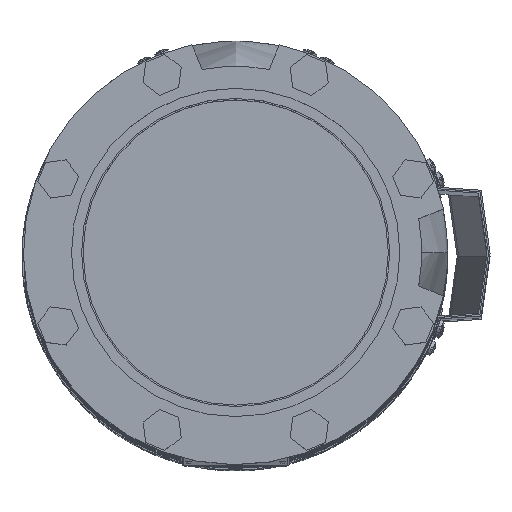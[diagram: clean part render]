
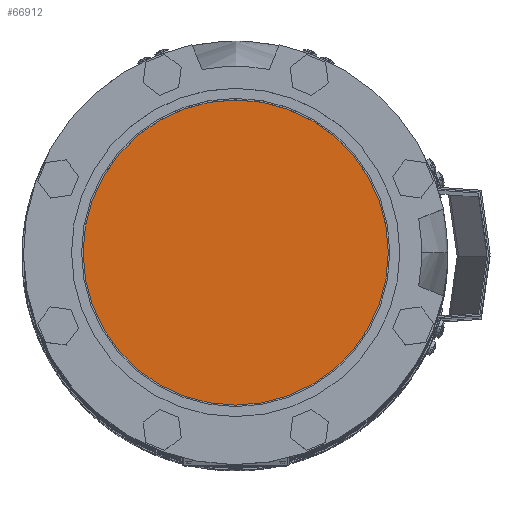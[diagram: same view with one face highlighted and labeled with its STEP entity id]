
A CAD part, top view. The second image highlights one B-rep face of the part: STEP entity #66912.
In plain terms, the highlighted planar face has unit normal (0, 0, 1) as drawn and (0, 1, 0) by its records, which use the part's own axes.
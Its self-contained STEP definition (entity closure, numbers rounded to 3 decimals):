
#604=CIRCLE('',#70518,102.5);
#605=CIRCLE('',#70519,102.5);
#16235=ORIENTED_EDGE('',*,*,#36499,.F.);
#16236=ORIENTED_EDGE('',*,*,#36500,.T.);
#36499=EDGE_CURVE('',#46631,#46632,#604,.T.);
#36500=EDGE_CURVE('',#46631,#46632,#605,.T.);
#46631=VERTEX_POINT('',#96509);
#46632=VERTEX_POINT('',#96510);
#54159=EDGE_LOOP('',(#16235,#16236));
#59022=FACE_BOUND('',#54159,.T.);
#63884=PLANE('',#70517);
#66912=ADVANCED_FACE('',(#59022),#63884,.T.);
#70517=AXIS2_PLACEMENT_3D('',#96507,#77073,#77074);
#70518=AXIS2_PLACEMENT_3D('',#96508,#77075,#77076);
#70519=AXIS2_PLACEMENT_3D('',#96511,#77077,#77078);
#77073=DIRECTION('',(0.,1.,0.));
#77074=DIRECTION('',(-1.,0.,0.));
#77075=DIRECTION('',(0.,-1.,0.));
#77076=DIRECTION('',(-1.,0.,0.));
#77077=DIRECTION('',(0.,1.,0.));
#77078=DIRECTION('',(-1.,0.,0.));
#96507=CARTESIAN_POINT('',(-109.56,216.5,0.));
#96508=CARTESIAN_POINT('',(0.,216.5,0.));
#96509=CARTESIAN_POINT('',(-102.5,216.5,0.));
#96510=CARTESIAN_POINT('',(102.5,216.5,0.));
#96511=CARTESIAN_POINT('',(0.,216.5,0.));
